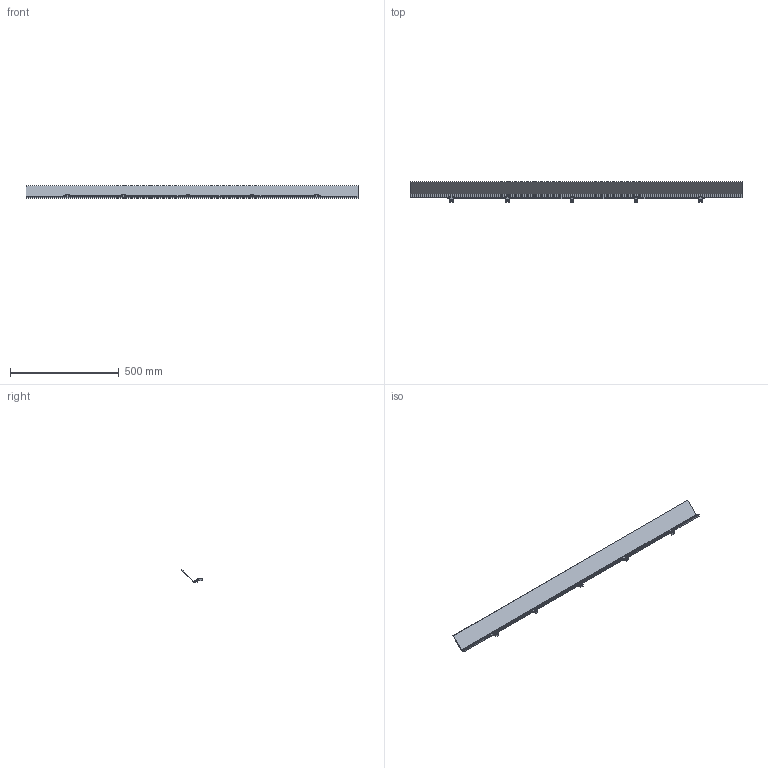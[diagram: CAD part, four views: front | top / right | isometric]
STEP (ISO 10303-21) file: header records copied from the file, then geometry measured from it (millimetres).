
FILE_DESCRIPTION((''),'2;1');
FILE_NAME('280805M_ASM','2023-02-28T',('jenni.wallner'),(''),'PRO/ENGINEER BY PARAMETRIC TECHNOLOGY CORPORATION, 2012420','PRO/ENGINEER BY PARAMETRIC TECHNOLOGY CORPORATION, 2012420','');
FILE_SCHEMA(('CONFIG_CONTROL_DESIGN'));
Length unit declared in the file: inch
Products named in the file (3): MANIFOLD_SOLID_BREP_7434; 2808XM_3_ASM; 280805M_ASM
Assembly tree (2 placements, depth 3):
  280805M_ASM
    2808XM_3_ASM
      MANIFOLD_SOLID_BREP_7434
Bounding box: 1524 x 95.74 x 55.76 mm (x, y, z)
Volume: 480422.4 mm3; surface area: 342127.5 mm2
Topology: 1 solids, 1 shells, 121 faces, 322 edges, 208 vertices
Faces by surface type: plane 89, cylinder 22, torus 10
Entity records: 3822 total; most frequent: CARTESIAN_POINT 657, ORIENTED_EDGE 644, DIRECTION 642, EDGE_CURVE 322, VECTOR 256, LINE 256, VERTEX_POINT 208, AXIS2_PLACEMENT_3D 193
